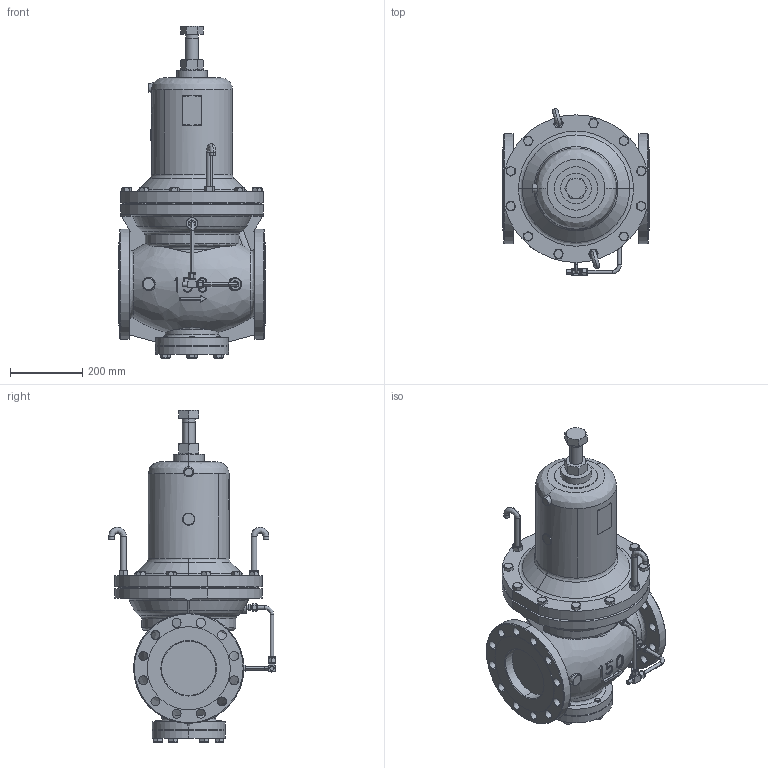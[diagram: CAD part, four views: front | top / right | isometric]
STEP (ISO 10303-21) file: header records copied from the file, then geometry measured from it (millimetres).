
FILE_DESCRIPTION( (''), '2;1');
FILE_NAME ('PC1276.9968.GD-200H 150A_25434.stp','2026-01-15T16:52:06',(''),(''),'spGate 20.6.3 (****-****-****-****)','','');
FILE_SCHEMA (('AUTOMOTIVE_DESIGN'));
Length unit declared in the file: millimetre
Products named in the file (21): Assembly; 6B本体; 5B保護筒 - コピー; 5Ｂカバー - コピー; CP_''_JIS B 1181 六角ナット 2種 上; 調節ねじ; PC1276-prt5; PC1276-prt6; PC1276-prt7; PC1276-prt8; PC1276-prt9; フックボルト_M7; PC1276-prt11; 全ネジ六角ボルト; CP_''_JIS B 1181 六角ナット 1種 上 ''_699; CP_''_JIS B 1180 全ネジ六角ボルト''_17166; SS-10M0-3; B-600-1-4RT - コピー; 検出管A65_M5; 検出管B65_M5; フックボルト(M16)
Assembly tree (44 placements, depth 2):
  Assembly
    6B本体
    5B保護筒 - コピー
    5Ｂカバー - コピー
    CP_''_JIS B 1181 六角ナット 2種 上
    調節ねじ
    PC1276-prt5  x2
    PC1276-prt6  x2
    PC1276-prt7  x2
    PC1276-prt8  x2
    PC1276-prt9  x2
    フックボルト_M7  x2
    PC1276-prt11  x2
    全ネジ六角ボルト  x10
    CP_''_JIS B 1181 六角ナット 1種 上 ''_699  x2
    CP_''_JIS B 1180 全ネジ六角ボルト''_17166  x6
    SS-10M0-3
    B-600-1-4RT - コピー  x2
    検出管A65_M5
    検出管B65_M5
    フックボルト(M16)  x2
Bounding box: 404 x 461.1 x 918.1 mm (x, y, z)
Volume: 48257566.6 mm3; surface area: 1771836.3 mm2
Topology: 32 solids, 32 shells, 1135 faces, 2629 edges, 1629 vertices
Faces by surface type: plane 400, bspline 370, cylinder 365
Entity records: 40962 total; most frequent: CARTESIAN_POINT 10980, ORIENTED_EDGE 3450, DIRECTION 3068, COLOUR_RGB 2456, PRESENTATION_STYLE_ASSIGNMENT 2456, STYLED_ITEM 2456, DRAUGHTING_PRE_DEFINED_CURVE_FONT 1731, CURVE_STYLE 1731
